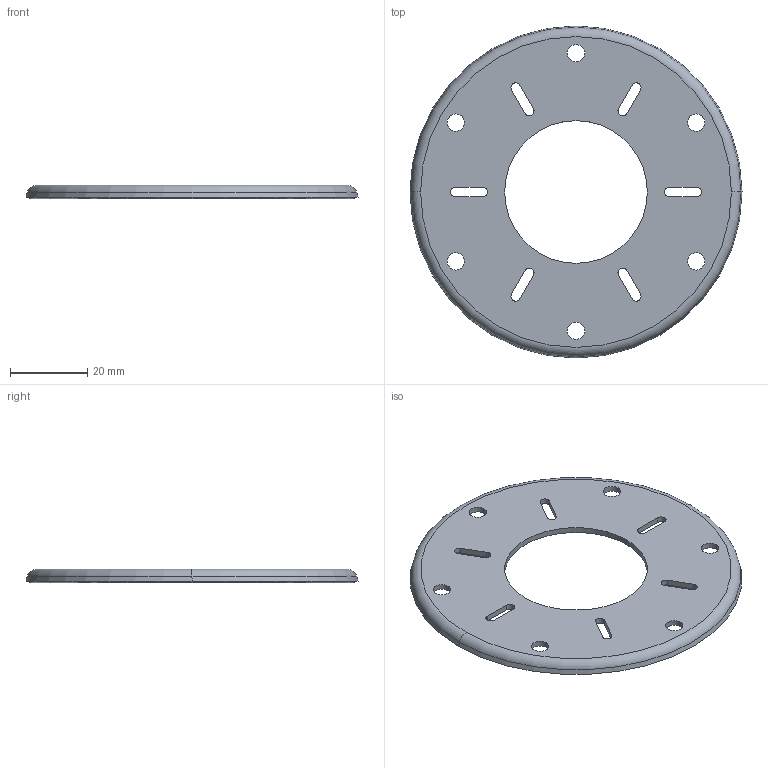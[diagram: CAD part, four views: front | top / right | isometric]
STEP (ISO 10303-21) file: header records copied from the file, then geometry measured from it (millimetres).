
FILE_DESCRIPTION (( 'STEP AP214' ), '1' );
FILE_NAME ('0238 Reibscheibe.STEP', '2025-03-25T13:19:16', ( '' ), ( '' ), 'SwSTEP 2.0', 'SolidWorks 2022', '' );
FILE_SCHEMA (( 'AUTOMOTIVE_DESIGN' ));
Length unit declared in the file: millimetre
Products named in the file (1): 0238 Reibscheibe
Bounding box: 86.1 x 86.1 x 3.5 mm (x, y, z)
Volume: 7083.7 mm3; surface area: 10403.9 mm2
Topology: 1 solids, 1 shells, 56 faces, 154 edges, 100 vertices
Faces by surface type: cylinder 32, plane 14, cone 6, torus 4
Entity records: 1900 total; most frequent: DIRECTION 348, CARTESIAN_POINT 311, ORIENTED_EDGE 308, EDGE_CURVE 154, AXIS2_PLACEMENT_3D 137, VERTEX_POINT 100, EDGE_LOOP 82, CIRCLE 80
